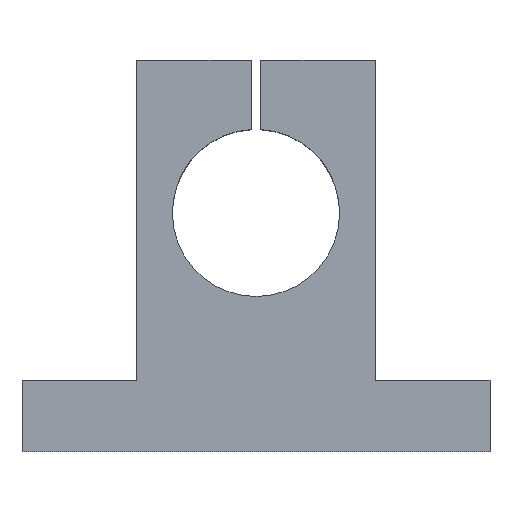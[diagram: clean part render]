
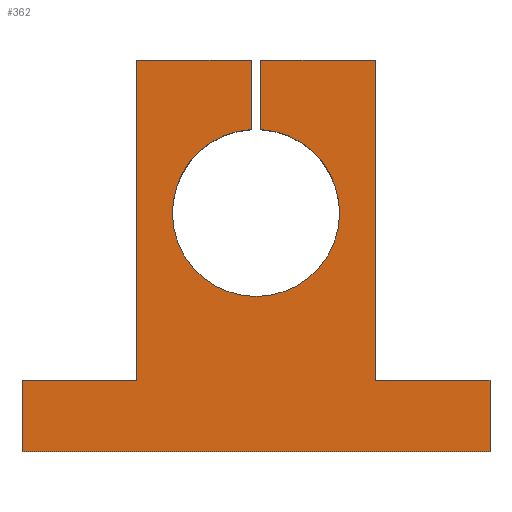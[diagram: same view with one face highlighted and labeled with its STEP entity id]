
A CAD part, top view. The second image highlights one B-rep face of the part: STEP entity #362.
In plain terms, the highlighted planar face has unit normal (0, 0, 1).
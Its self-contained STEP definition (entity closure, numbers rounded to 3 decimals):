
#27=CIRCLE('',#397,17.5);
#47=ORIENTED_EDGE('',*,*,#139,.F.);
#48=ORIENTED_EDGE('',*,*,#135,.T.);
#49=ORIENTED_EDGE('',*,*,#140,.T.);
#50=ORIENTED_EDGE('',*,*,#141,.T.);
#51=ORIENTED_EDGE('',*,*,#142,.T.);
#52=ORIENTED_EDGE('',*,*,#143,.T.);
#53=ORIENTED_EDGE('',*,*,#144,.T.);
#54=ORIENTED_EDGE('',*,*,#145,.T.);
#55=ORIENTED_EDGE('',*,*,#146,.T.);
#56=ORIENTED_EDGE('',*,*,#147,.T.);
#57=ORIENTED_EDGE('',*,*,#132,.F.);
#58=ORIENTED_EDGE('',*,*,#148,.F.);
#132=EDGE_CURVE('',#178,#179,#212,.T.);
#135=EDGE_CURVE('',#181,#182,#214,.T.);
#139=EDGE_CURVE('',#181,#185,#218,.T.);
#140=EDGE_CURVE('',#182,#186,#219,.T.);
#141=EDGE_CURVE('',#186,#187,#220,.T.);
#142=EDGE_CURVE('',#187,#188,#221,.T.);
#143=EDGE_CURVE('',#188,#189,#222,.T.);
#144=EDGE_CURVE('',#189,#190,#223,.T.);
#145=EDGE_CURVE('',#190,#191,#224,.T.);
#146=EDGE_CURVE('',#191,#192,#225,.T.);
#147=EDGE_CURVE('',#192,#179,#226,.T.);
#148=EDGE_CURVE('',#185,#178,#27,.T.);
#178=VERTEX_POINT('',#531);
#179=VERTEX_POINT('',#533);
#181=VERTEX_POINT('',#539);
#182=VERTEX_POINT('',#540);
#185=VERTEX_POINT('',#548);
#186=VERTEX_POINT('',#550);
#187=VERTEX_POINT('',#552);
#188=VERTEX_POINT('',#554);
#189=VERTEX_POINT('',#556);
#190=VERTEX_POINT('',#558);
#191=VERTEX_POINT('',#560);
#192=VERTEX_POINT('',#562);
#212=LINE('',#532,#246);
#214=LINE('',#538,#248);
#218=LINE('',#547,#252);
#219=LINE('',#549,#253);
#220=LINE('',#551,#254);
#221=LINE('',#553,#255);
#222=LINE('',#555,#256);
#223=LINE('',#557,#257);
#224=LINE('',#559,#258);
#225=LINE('',#561,#259);
#226=LINE('',#563,#260);
#246=VECTOR('',#431,1000.);
#248=VECTOR('',#437,1000.);
#252=VECTOR('',#443,1000.);
#253=VECTOR('',#444,1000.);
#254=VECTOR('',#445,1000.);
#255=VECTOR('',#446,1000.);
#256=VECTOR('',#447,1000.);
#257=VECTOR('',#448,1000.);
#258=VECTOR('',#449,1000.);
#259=VECTOR('',#450,1000.);
#260=VECTOR('',#451,1000.);
#281=EDGE_LOOP('',(#47,#48,#49,#50,#51,#52,#53,#54,#55,#56,#57,#58));
#315=FACE_BOUND('',#281,.T.);
#348=PLANE('',#396);
#362=ADVANCED_FACE('',(#315),#348,.T.);
#396=AXIS2_PLACEMENT_3D('',#546,#441,#442);
#397=AXIS2_PLACEMENT_3D('',#564,#452,#453);
#431=DIRECTION('',(0.,1.,0.));
#437=DIRECTION('',(-1.,0.,0.));
#441=DIRECTION('',(0.,0.,1.));
#442=DIRECTION('',(1.,0.,0.));
#443=DIRECTION('',(0.,-1.,0.));
#444=DIRECTION('',(0.,-1.,0.));
#445=DIRECTION('',(-1.,0.,0.));
#446=DIRECTION('',(0.,-1.,0.));
#447=DIRECTION('',(1.,0.,0.));
#448=DIRECTION('',(0.,1.,0.));
#449=DIRECTION('',(-1.,0.,0.));
#450=DIRECTION('',(0.,1.,0.));
#451=DIRECTION('',(-1.,0.,0.));
#452=DIRECTION('',(0.,0.,1.));
#453=DIRECTION('',(1.,0.,0.));
#531=CARTESIAN_POINT('',(1.,17.471,16.));
#532=CARTESIAN_POINT('',(1.,32.,16.));
#533=CARTESIAN_POINT('',(1.,32.,16.));
#538=CARTESIAN_POINT('',(25.,32.,16.));
#539=CARTESIAN_POINT('',(-1.,32.,16.));
#540=CARTESIAN_POINT('',(-25.,32.,16.));
#546=CARTESIAN_POINT('',(49.,-35.,16.));
#547=CARTESIAN_POINT('',(-1.,32.,16.));
#548=CARTESIAN_POINT('',(-1.,17.471,16.));
#549=CARTESIAN_POINT('',(-25.,-35.,16.));
#550=CARTESIAN_POINT('',(-25.,-35.,16.));
#551=CARTESIAN_POINT('',(-49.,-35.,16.));
#552=CARTESIAN_POINT('',(-49.,-35.,16.));
#553=CARTESIAN_POINT('',(-49.,-50.,16.));
#554=CARTESIAN_POINT('',(-49.,-50.,16.));
#555=CARTESIAN_POINT('',(-49.,-50.,16.));
#556=CARTESIAN_POINT('',(49.,-50.,16.));
#557=CARTESIAN_POINT('',(49.,-50.,16.));
#558=CARTESIAN_POINT('',(49.,-35.,16.));
#559=CARTESIAN_POINT('',(49.,-35.,16.));
#560=CARTESIAN_POINT('',(25.,-35.,16.));
#561=CARTESIAN_POINT('',(25.,-35.,16.));
#562=CARTESIAN_POINT('',(25.,32.,16.));
#563=CARTESIAN_POINT('',(25.,32.,16.));
#564=CARTESIAN_POINT('',(0.,0.,16.));
